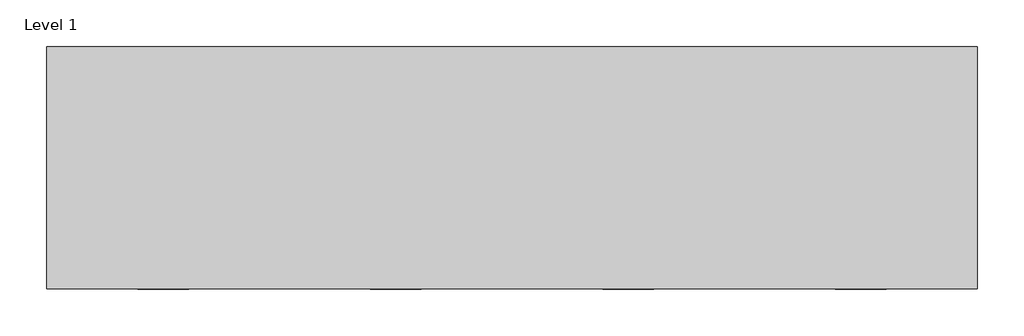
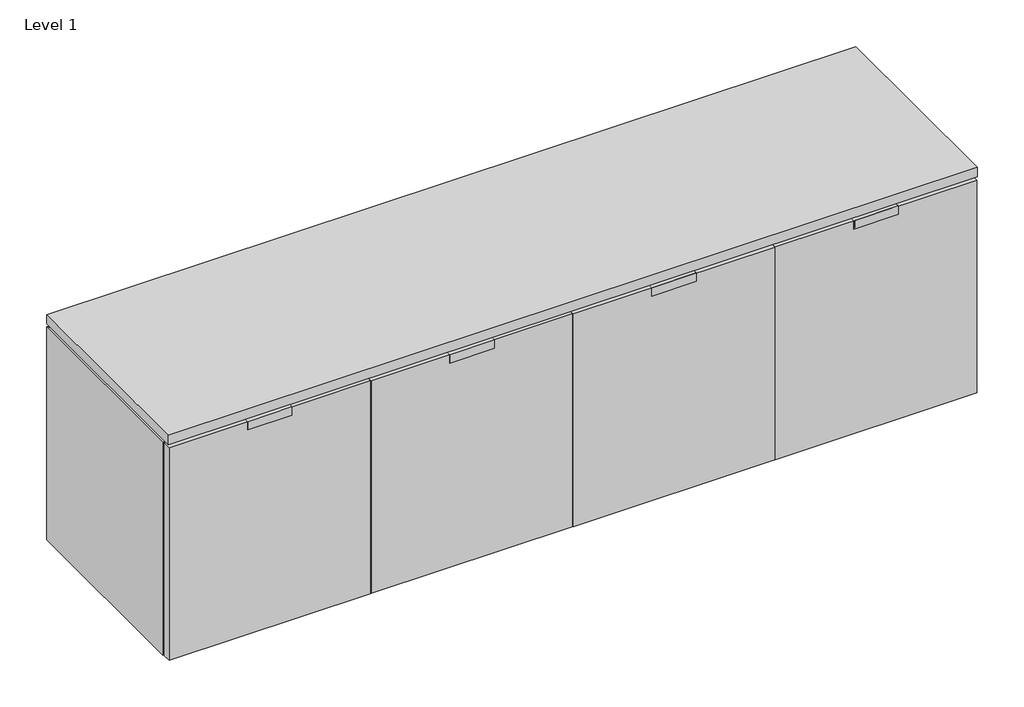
# One storey, incomplete: 19 proxies.
"""IFC4 building model written with IfcOpenShell, lengths in millimetres."""

import ifcopenshell
import ifcopenshell.guid

model = None  # the IFC model being written
_history = None  # IfcOwnerHistory: only IFC2X3 demands one
_inside = {}  # id of a spatial element -> (the spatial element, [elements in it])
_under = {}  # id of a project, library or spatial element -> (it, [spatial elements below it])
_declared = {}  # id of a project -> (the project, [libraries it declares])
_typed = {}  # id of a type object -> (the type object, [elements of that type])
_made_of = {}  # id of a material, layer set ... -> (it, [elements and type objects made of it])


def new_model(schema):
    """Start an empty IFC model of exactly this schema.

    Asked for "IFC4X3", IfcOpenShell would pick the latest addendum, in which some entities
    have other attributes; the version numbers below select the first issue.
    IFC2X3 requires an IfcOwnerHistory on every rooted entity: one is made here for all.
    """
    global model, _history
    if schema == "IFC4X3":
        model = ifcopenshell.file(schema_version=(4, 3, 0, 0))
    else:
        model = ifcopenshell.file(schema=schema)
    _inside.clear()
    _under.clear()
    _declared.clear()
    _typed.clear()
    _made_of.clear()
    _history = None
    if model.schema == "IFC2X3":
        org = make("IfcOrganization", Name="unknown")
        user = make(
            "IfcPersonAndOrganization",
            ThePerson=make("IfcPerson", FamilyName="unknown"),
            TheOrganization=org,
        )
        app = make(
            "IfcApplication",
            ApplicationDeveloper=org,
            Version="unknown",
            ApplicationFullName="unknown",
            ApplicationIdentifier="unknown",
        )
        _history = make(
            "IfcOwnerHistory",
            OwningUser=user,
            OwningApplication=app,
            ChangeAction="ADDED",
            CreationDate=0,
        )
    return model


def make(cls, **values):
    """One entity of the class cls with the attributes given. An attribute that is None is left unset."""
    return model.create_entity(
        cls, **{name: value for name, value in values.items() if value is not None}
    )


def rooted(cls, **values):
    """An entity with a GlobalId (a new one), such as an element, a storey or a relation."""
    return make(cls, GlobalId=ifcopenshell.guid.new(), OwnerHistory=_history, **values)


def si_unit(unit_type, name, prefix=None):
    """IfcSIUnit, for example si_unit("LENGTHUNIT", "METRE", prefix="MILLI")."""
    return make("IfcSIUnit", UnitType=unit_type, Prefix=prefix, Name=name)


def assignment(units):
    """IfcUnitAssignment: the units of a project."""
    return None if units is None else make("IfcUnitAssignment", Units=units)


def point(xyz):
    """IfcCartesianPoint."""
    return None if xyz is None else make("IfcCartesianPoint", Coordinates=xyz)


def direction(xyz):
    """IfcDirection."""
    return None if xyz is None else make("IfcDirection", DirectionRatios=xyz)


def frame(location, z_axis=None, x_axis=None):
    """IfcAxis2Placement3D, a coordinate frame: its origin and axes. An axis left out is left unset."""
    return make(
        "IfcAxis2Placement3D",
        Location=point(location),
        Axis=direction(z_axis),
        RefDirection=direction(x_axis),
    )


def origin():
    """The frame at (0, 0, 0) with its axes left unset."""
    return frame((0.0, 0.0, 0.0))


def place(relative_to, where):
    """IfcLocalPlacement: puts the frame where relative to a parent placement (None: the world)."""
    return make(
        "IfcLocalPlacement", PlacementRelTo=relative_to, RelativePlacement=where
    )


def context(
    kind, dimensions, precision=None, world=None, true_north=None, identifier=None
):
    """IfcGeometricRepresentationContext, for example the 3D "Model" context."""
    return make(
        "IfcGeometricRepresentationContext",
        ContextIdentifier=identifier,
        ContextType=kind,
        CoordinateSpaceDimension=dimensions,
        Precision=precision,
        WorldCoordinateSystem=world,
        TrueNorth=true_north,
    )


def project(units=None, contexts=None):
    """IfcProject with its units and contexts."""
    return rooted(
        "IfcProject",
        Name="project",
        RepresentationContexts=contexts,
        UnitsInContext=assignment(units),
    )


def spatial(cls, under=None, at=None, **own):
    """A site, building, storey or space (cls), placed at a placement, below another one or the project."""
    s = rooted(cls, ObjectPlacement=at, **own)
    if under is not None:
        _under.setdefault(under.id(), (under, []))[1].append(s)
    return s


def polyline(points):
    """IfcPolyline through the points."""
    return make("IfcPolyline", Points=[point(p) for p in points])


def circle_curve(where, radius):
    """IfcCircle in the frame where."""
    return make("IfcCircle", Position=where, Radius=radius)


def outline(outer, holes=None, kind="AREA"):
    """IfcArbitraryClosedProfileDef: a profile drawn as a closed curve; with holes, ...WithVoids."""
    if holes is None:
        return make("IfcArbitraryClosedProfileDef", ProfileType=kind, OuterCurve=outer)
    return make(
        "IfcArbitraryProfileDefWithVoids",
        ProfileType=kind,
        OuterCurve=outer,
        InnerCurves=holes,
    )


def extrude(swept, where, along, depth):
    """IfcExtrudedAreaSolid: the profile swept, set in the frame where, extruded along a direction by depth."""
    return make(
        "IfcExtrudedAreaSolid",
        SweptArea=swept,
        Position=where,
        ExtrudedDirection=direction(along),
        Depth=depth,
    )


def shape(context_of_items, identifier, shape_type, items):
    """IfcShapeRepresentation: the items that make up one representation, for example the "Body"."""
    return make(
        "IfcShapeRepresentation",
        ContextOfItems=context_of_items,
        RepresentationIdentifier=identifier,
        RepresentationType=shape_type,
        Items=items,
    )


def source(mapping_origin, context_of_items, identifier, shape_type, items):
    """IfcRepresentationMap: a shape defined once, which mapped items show again and again."""
    return make(
        "IfcRepresentationMap",
        MappingOrigin=mapping_origin,
        MappedRepresentation=shape(context_of_items, identifier, shape_type, items),
    )


def transform(
    local_origin,
    x_axis=None,
    y_axis=None,
    z_axis=None,
    scale=None,
    scale2=None,
    scale3=None,
    uniform=True,
):
    """IfcCartesianTransformationOperator3D, or its non-uniform kind. x_axis, y_axis, z_axis: its Axis1, 2, 3."""
    if uniform:
        return make(
            "IfcCartesianTransformationOperator3D",
            Axis1=direction(x_axis),
            Axis2=direction(y_axis),
            LocalOrigin=point(local_origin),
            Scale=scale,
            Axis3=direction(z_axis),
        )
    return make(
        "IfcCartesianTransformationOperator3DnonUniform",
        Axis1=direction(x_axis),
        Axis2=direction(y_axis),
        LocalOrigin=point(local_origin),
        Scale=scale,
        Axis3=direction(z_axis),
        Scale2=scale2,
        Scale3=scale3,
    )


def mapped(mapping_source, mapping_target):
    """IfcMappedItem: shows the shape of a source again, moved by a transform."""
    return make(
        "IfcMappedItem", MappingSource=mapping_source, MappingTarget=mapping_target
    )


def made_of(thing, what):
    """Note that an element or type object is made of a material, layer set ...; save() writes the relation."""
    if what is not None:
        _made_of.setdefault(what.id(), (what, []))[1].append(thing)
    return thing


def element(
    cls,
    number,
    at=None,
    inside=None,
    cuts=None,
    type_object=None,
    material=None,
    context=None,
    identifier="Body",
    shape_type=None,
    held_by="IfcProductDefinitionShape",
    body=None,
    shapes=None,
    **own,
):
    """One element of the class cls, such as IfcWall. Its Tag is "e" and its number.

    at: its placement. inside: the storey or other place that contains it. cuts: it is an
    opening in that element (IfcRelVoidsElement). A single representation is given by context,
    identifier, shape_type and body (its items); several are given by shapes. held_by: the class
    of the entity that holds the representations. save() writes the other relations.
    """
    e = rooted(cls, Tag="e%d" % number, ObjectPlacement=at, **own)
    if body is not None:
        shapes = [shape(context, identifier, shape_type, body)]
    if shapes is not None:
        e.Representation = make(held_by, Representations=shapes)
    if inside is not None:
        _inside.setdefault(inside.id(), (inside, []))[1].append(e)
    if cuts is not None:
        rooted(
            "IfcRelVoidsElement", RelatingBuildingElement=cuts, RelatedOpeningElement=e
        )
    if type_object is not None:
        _typed.setdefault(type_object.id(), (type_object, []))[1].append(e)
    return made_of(e, material)


def aggregate(whole, parts):
    """IfcRelAggregates: a whole, such as a stair, and the parts it consists of."""
    return rooted("IfcRelAggregates", RelatingObject=whole, RelatedObjects=parts)


def save(model, path):
    """Write the relations noted so far, then the file.

    IfcRelAggregates (storeys below a building ...), IfcRelContainedInSpatialStructure (elements
    in a storey), IfcRelDefinesByType, IfcRelAssociatesMaterial and IfcRelDeclares: one each for
    every whole, place, type object, material and project.
    """
    for whole, parts in _under.values():
        aggregate(whole, parts)
    for where, things in _inside.values():
        rooted(
            "IfcRelContainedInSpatialStructure",
            RelatedElements=things,
            RelatingStructure=where,
        )
    for kind, things in _typed.values():
        rooted("IfcRelDefinesByType", RelatedObjects=things, RelatingType=kind)
    for what, things in _made_of.values():
        rooted("IfcRelAssociatesMaterial", RelatedObjects=things, RelatingMaterial=what)
    for by, libraries in _declared.values():
        rooted("IfcRelDeclares", RelatingContext=by, RelatedDefinitions=libraries)
    model.write(path)


def plane_surface(at):
    """IfcPlane: the flat surface through the origin of the frame at, square to its z axis."""
    return make("IfcPlane", Position=at)


def cylinder_surface(at, radius):
    """IfcCylindricalSurface: all points at the distance radius from the z axis of the frame at."""
    return make("IfcCylindricalSurface", Position=at, Radius=radius)


def advanced_brep(points, edges, surfaces, faces):
    """IfcAdvancedBrep: a solid bounded by faces that lie on surfaces and meet in shared edges.

    An edge is (start, end): straight between two places in points (the first is 0);
    or (start, end, curve); or (start, end, curve, False) where it runs against its curve.
    A face is (place in surfaces, loops), or (place, loops, False) where it looks against
    its surface's normal. A loop lists edges by number (the first is 1), with a minus sign
    where the edge is run from its end to its start. The first loop is the outer one.
    """
    corners = [point(p) for p in points]
    vertices = [make("IfcVertexPoint", VertexGeometry=c) for c in corners]
    made = []
    for start, end, *more in edges:
        made.append(
            make(
                "IfcEdgeCurve",
                EdgeStart=vertices[start],
                EdgeEnd=vertices[end],
                EdgeGeometry=more[0] if more else make("IfcPolyline", Points=[corners[start], corners[end]]),
                SameSense=more[1] if len(more) > 1 else True,
            )
        )
    hull = []
    for where, loops, *sense in faces:
        bounds = []
        for j, loop in enumerate(loops):
            ring = [make("IfcOrientedEdge", EdgeElement=made[abs(k) - 1], Orientation=k > 0) for k in loop]
            bounds.append(
                make(
                    "IfcFaceOuterBound" if j == 0 else "IfcFaceBound",
                    Bound=make("IfcEdgeLoop", EdgeList=ring),
                    Orientation=True,
                )
            )
        hull.append(make("IfcAdvancedFace", Bounds=bounds, FaceSurface=surfaces[where], SameSense=sense[0] if sense else True))
    return make("IfcAdvancedBrep", Outer=make("IfcClosedShell", CfsFaces=hull))


def generic_models_123ce8f4(model_context):
    return source(origin(), model_context, "Body", "SweptSolid", [
        extrude(outline(polyline([(604.8375, -28.575), (623.8875, -28.575), (623.8875, -668.5), (604.8375, -668.5), (604.8375, -28.575)])), frame((0.0, 0.0, -615.95), z_axis=(0.0, 0.0, 1.0), x_axis=(1.0, 0.0, 0.0)), (0.0, 0.0, 1.0), 587.375),
    ])


def generic_models_c79cc1ee(model_context):
    return source(origin(), model_context, "Body", "SweptSolid", [
        extrude(outline(polyline([(108.74375, -668.5), (108.74375, -706.6), (19.05, -706.6), (19.05, -668.5), (108.74375, -668.5)])), frame((0.0, 0.0, -615.95), z_axis=(0.0, 0.0, 1.0), x_axis=(1.0, 0.0, 0.0)), (0.0, 0.0, 1.0), 587.375),
    ])


def generic_models_07acab32(model_context):
    return source(origin(), model_context, "Body", "SweptSolid", [
        extrude(outline(polyline([(-28.575, 19.05), (-28.575, 0.0), (-635.0, 0.0), (-615.95, 19.05), (-28.575, 19.05)])), frame((0.0, -687.55, 0.0), z_axis=(0.0, 1.0, 0.0), x_axis=(0.0, 0.0, 1.0)), (0.0, 0.0, 1.0), 678.025),
    ])


def generic_models_36aad1c9(model_context):
    return source(origin(), model_context, "Body", "SweptSolid", [
        extrude(outline(polyline([(604.8375, -668.5), (19.05, -668.5), (19.05, -649.45), (604.8375, -649.45), (604.8375, -668.5)])), frame((0.0, 0.0, -615.95), z_axis=(0.0, 0.0, 1.0), x_axis=(1.0, 0.0, 0.0)), (0.0, 0.0, 1.0), 587.375),
    ])


def generic_models_1e92318b(model_context):
    return source(origin(), model_context, "Body", "SweptSolid", [
        extrude(outline(polyline([(1814.5125, -28.575), (1833.5625, -28.575), (1833.5625, -668.5), (1814.5125, -668.5), (1814.5125, -28.575)])), frame((0.0, 0.0, -615.95), z_axis=(0.0, 0.0, 1.0), x_axis=(1.0, 0.0, 0.0)), (0.0, 0.0, 1.0), 587.375),
    ])


def generic_models_2541da5b(model_context):
    return source(origin(), model_context, "Body", "SweptSolid", [
        extrude(outline(polyline([(2436.0520875, -687.55), (1829.42865, -687.55), (1829.42865, -9.525), (2436.0520875, -9.525), (2436.0520875, -687.55)])), frame((0.0, 0.0, -25.4), z_axis=(0.0, 0.0, 1.0), x_axis=(1.0, 0.0, 0.0)), (0.0, 0.0, 1.0), 25.4),
    ])


def generic_models_3c5db53f(model_context):
    return source(origin(), model_context, "Body", "SweptSolid", [
        extrude(outline(polyline([(19.05, 0.0), (2419.35, 0.0), (2419.35, -28.575), (19.05, -28.575), (19.05, 0.0)])), frame((0.0, 0.0, -615.95), z_axis=(0.0, 0.0, 1.0), x_axis=(1.0, 0.0, 0.0)), (0.0, 0.0, 1.0), 587.375),
    ])


def generic_models_a6ef1975(model_context):
    return source(origin(), model_context, "Body", "SweptSolid", [
        extrude(outline(polyline([(1228.725, -668.5), (1209.675, -668.5), (1209.675, -28.575), (1228.725, -28.575), (1228.725, -668.5)])), frame((0.0, 0.0, -615.95), z_axis=(0.0, 0.0, 1.0), x_axis=(1.0, 0.0, 0.0)), (0.0, 0.0, 1.0), 587.375),
    ])


def generic_models_30219c74(model_context):
    return source(origin(), model_context, "Body", "SweptSolid", [
        extrude(outline(polyline([(2419.35, -668.5), (2419.35, -706.6), (515.14375, -706.6), (515.14375, -668.5), (2419.35, -668.5)])), frame((0.0, 0.0, -615.95), z_axis=(0.0, 0.0, 1.0), x_axis=(1.0, 0.0, 0.0)), (0.0, 0.0, 1.0), 587.375),
    ])


def generic_models_e2126484(model_context):
    return source(origin(), model_context, "Body", "SweptSolid", [
        extrude(outline(polyline([(-615.95, 2419.35), (-615.95, 19.05), (-635.0, 0.0), (-635.0, 2438.4), (-615.95, 2419.35)])), frame((0.0, -687.55, 0.0), z_axis=(0.0, 1.0, 0.0), x_axis=(0.0, 0.0, 1.0)), (0.0, 0.0, 1.0), 678.025),
    ])


def generic_models_457b1677(model_context):
    return source(origin(), model_context, "Body", "SweptSolid", [
        extrude(outline(polyline([(2438.4, 0.0), (0.0, 0.0), (0.0, 30.0), (2438.4, 30.0), (2438.4, 0.0)])), frame((0.0, 0.0, -635.0), z_axis=(0.0, 0.0, 1.0), x_axis=(1.0, 0.0, 0.0)), (0.0, 0.0, 1.0), 635.0),
    ])


def generic_models_30467224(model_context):
    return source(origin(), model_context, "Body", "SweptSolid", [
        extrude(outline(polyline([(609.0046875, -687.55), (2.38125, -687.55), (2.38125, -9.525), (609.0046875, -9.525), (609.0046875, -687.55)])), frame((0.0, 0.0, -25.4), z_axis=(0.0, 0.0, 1.0), x_axis=(1.0, 0.0, 0.0)), (0.0, 0.0, 1.0), 25.4),
    ])


def generic_models_2f4708ec(model_context):
    return source(origin(), model_context, "Body", "SweptSolid", [
        extrude(outline(polyline([(1218.0204875, -687.55), (611.39705, -687.55), (611.39705, -9.525), (1218.0204875, -9.525), (1218.0204875, -687.55)])), frame((0.0, 0.0, -25.4), z_axis=(0.0, 0.0, 1.0), x_axis=(1.0, 0.0, 0.0)), (0.0, 0.0, 1.0), 25.4),
    ])


def generic_models_2bbf2483(model_context):
    return source(origin(), model_context, "Body", "SweptSolid", [
        extrude(outline(polyline([(-28.575, 2419.35), (-615.95, 2419.35), (-635.0, 2438.4), (-28.575, 2438.4), (-28.575, 2419.35)])), frame((0.0, -687.55, 0.0), z_axis=(0.0, 1.0, 0.0), x_axis=(0.0, 0.0, 1.0)), (0.0, 0.0, 1.0), 678.025),
    ])


def generic_models_5b38791a(model_context):
    return source(origin(), model_context, "Body", "SweptSolid", [
        extrude(outline(polyline([(1827.0362875, -687.55), (1220.41285, -687.55), (1220.41285, -9.525), (1827.0362875, -9.525), (1827.0362875, -687.55)])), frame((0.0, 0.0, -25.4), z_axis=(0.0, 0.0, 1.0), x_axis=(1.0, 0.0, 0.0)), (0.0, 0.0, 1.0), 25.4),
    ])


def pull_2518_0e440d19(model_context):
    return source(origin(), model_context, "Body", "AdvancedBrep", [
        advanced_brep(
        [(47.592487, -59.6005192, 12.7), (181.592487, -59.6005192, 12.7), (181.592487, -59.6005192, 0.0), (47.592487, -59.6005192, 0.0), (47.592487, -86.6005192, 12.7), (181.592487, -86.6005192, 12.7), (47.592487, -86.6005192, 12.192), (181.592487, -86.6005192, 12.192), (181.592487, -60.1085192, 0.0), (47.592487, -60.1085192, 0.0), (53.942487, -85.6005192, 12.192), (49.973737, -83.8382098, 12.192), (49.973737, -83.8382098, 0.7), (53.942487, -85.6005192, 0.7), (175.242487, -85.6005192, 12.192), (175.242487, -85.6005192, 0.7), (179.211237, -83.8382098, 12.192), (179.211237, -83.8382098, 0.7), (181.592487, -60.1085192, 12.192), (179.211237, -60.1085192, 12.192), (179.211237, -60.1085192, 0.7), (49.973737, -60.1085192, 0.7), (49.973737, -60.1085192, 12.192), (47.592487, -60.1085192, 12.192)],
        [
            (0, 1),
            (1, 2),
            (2, 3),
            (3, 0),
            (0, 4),
            (4, 5),
            (5, 1),
            (4, 6),
            (6, 7),
            (7, 5),
            (2, 8),
            (8, 9),
            (9, 3),
            (10, 11, circle_curve(frame((53.942487, -80.2505192, 12.192), z_axis=(0.0, 0.0, -1.0), x_axis=(-5.897046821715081e-12, 1.0, 0.0)), 5.35)),
            (11, 12),
            (12, 13, circle_curve(frame((53.942487, -80.2505192, 0.7), z_axis=(0.0, 0.0, 1.0), x_axis=(-5.897046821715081e-12, 1.0, 0.0)), 5.35)),
            (13, 10),
            (14, 10),
            (13, 15),
            (15, 14),
            (16, 14, circle_curve(frame((175.242487, -80.2505192, 12.192), z_axis=(0.0, 0.0, -1.0), x_axis=(-0.741822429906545, 0.6705963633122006, 0.0)), 5.35)),
            (15, 17, circle_curve(frame((175.242487, -80.2505192, 0.7), z_axis=(0.0, 0.0, 1.0), x_axis=(-0.741822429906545, 0.6705963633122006, 0.0)), 5.35)),
            (17, 16),
            (8, 18),
            (18, 19),
            (19, 20),
            (20, 21),
            (21, 22),
            (22, 23),
            (23, 9),
            (12, 21),
            (20, 17),
            (19, 16),
            (6, 23),
            (22, 11),
            (18, 7),
        ],
        [
            plane_surface(frame((181.592487, -59.6005192, 0.0), z_axis=(0.0, 1.0, 0.0), x_axis=(-1.0, 0.0, 0.0))),
            plane_surface(frame((114.592487, -79.0969577, 12.7), z_axis=(0.0, 0.0, 1.0), x_axis=(1.0, 0.0, 0.0))),
            plane_surface(frame((47.592487, -86.6005192, 0.0), z_axis=(0.0, -1.0, 0.0), x_axis=(1.0, 0.0, 0.0))),
            plane_surface(frame((114.592487, -79.0969577, 0.0), z_axis=(0.0, 0.0, -1.0), x_axis=(1.0, 0.0, 0.0))),
            cylinder_surface(frame((53.942487, -80.2505192, 0.7), z_axis=(0.0, 0.0, 1.0), x_axis=(-5.897046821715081e-12, 1.0, 0.0)), 5.35),
            plane_surface(frame((175.242487, -85.6005192, 0.7), z_axis=(0.0, -1.0, 0.0), x_axis=(-1.0, 0.0, 0.0))),
            cylinder_surface(frame((175.242487, -80.2505192, 0.7), z_axis=(0.0, 0.0, 0.9999999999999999), x_axis=(-0.741822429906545, 0.6705963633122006, 0.0)), 5.35),
            plane_surface(frame((180.401862, -60.1085192, 6.096), z_axis=(0.0, -1.0, 0.0), x_axis=(0.0, 0.0, -1.0))),
            plane_surface(frame((114.592487, -73.3545192, 0.7), z_axis=(0.0, 0.0, -1.0), x_axis=(1.0, 0.0, 0.0))),
            plane_surface(frame((179.211237, -59.6005192, 0.0), z_axis=(1.0, 0.0, 0.0), x_axis=(0.0, -1.0, 0.0))),
            plane_surface(frame((48.783112, -72.4040028, 12.192), z_axis=(0.0, 0.0, -1.0), x_axis=(-1.0, 0.0, 0.0))),
            plane_surface(frame((49.973737, -85.2074864, 0.0), z_axis=(-1.0, 1.4501810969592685e-12, 0.0), x_axis=(1.4501810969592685e-12, 1.0, 0.0))),
            plane_surface(frame((47.592487, -59.6005192, 0.0), z_axis=(-1.0, 1.449704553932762e-12, 0.0), x_axis=(-1.449704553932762e-12, -1.0, 0.0))),
            plane_surface(frame((181.592487, -86.6005192, 0.0), z_axis=(1.0, 0.0, 0.0), x_axis=(0.0, 1.0, 0.0))),
        ],
        [
            (0, [[1, 2, 3, 4]]),
            (1, [[-1, 5, 6, 7]]),
            (2, [[-6, 8, 9, 10]]),
            (3, [[-3, 11, 12, 13]]),
            (4, [[14, 15, 16, 17]]),
            (5, [[18, -17, 19, 20]]),
            (6, [[21, -20, 22, 23]]),
            (7, [[-12, 24, 25, 26, 27, 28, 29, 30]]),
            (8, [[-16, 31, -27, 32, -22, -19]]),
            (9, [[-23, -32, -26, 33]]),
            (10, [[-9, 34, -29, 35, -14, -18, -21, -33, -25, 36]]),
            (11, [[-15, -35, -28, -31]]),
            (12, [[-5, -4, -13, -30, -34, -8]]),
            (13, [[-10, -36, -24, -11, -2, -7]]),
        ],
    ),
    ])


model = new_model("IFC4")

# Units and contexts
model_context = context("Model", 3, world=origin())
ifc_project = project(units=[si_unit("LENGTHUNIT", "METRE", prefix="MILLI")], contexts=[model_context])

# Site, building, storey
site = spatial("IfcSite", under=ifc_project)
building = spatial("IfcBuilding", under=site)
storey = spatial("IfcBuildingStorey", under=building, Name="Level 1", Elevation=0.0)

# Proxies
placement = place(None, origin())
generic_models_shape = generic_models_123ce8f4(model_context)
element("IfcBuildingElementProxy", 1, Name="BASYS^CREDENZA 1_INTERNAL DETAILS-LT PART", ObjectType="BASYS^CREDENZA 1_INTERNAL DETAILS-LT PART", at=placement, inside=storey, context=model_context, shape_type="MappedRepresentation", body=[
    mapped(generic_models_shape, transform((0.0, 0.0, 0.0), x_axis=(1.0, 0.0, 0.0), y_axis=(0.0, 0.0, 1.0), z_axis=(0.0, -1.0, 0.0))),
])
generic_models_2_shape = generic_models_c79cc1ee(model_context)
element("IfcBuildingElementProxy", 2, Name="BASYS^CREDENZA 1_INTERNAL DETAILS-LEFT BOTTOM", ObjectType="BASYS^CREDENZA 1_INTERNAL DETAILS-LEFT BOTTOM", at=placement, inside=storey, context=model_context, shape_type="MappedRepresentation", body=[
    mapped(generic_models_2_shape, transform((0.0, 0.0, 0.0), x_axis=(1.0, 0.0, 0.0), y_axis=(0.0, 0.0, 1.0), z_axis=(0.0, -1.0, 0.0))),
])
generic_models_3_shape = generic_models_07acab32(model_context)
element("IfcBuildingElementProxy", 3, Name="BASYS^CREDENZA 1_INTERNAL DETAILS-LEFT END", ObjectType="BASYS^CREDENZA 1_INTERNAL DETAILS-LEFT END", at=placement, inside=storey, context=model_context, shape_type="MappedRepresentation", body=[
    mapped(generic_models_3_shape, transform((0.0, 0.0, 0.0), x_axis=(1.0, 0.0, 0.0), y_axis=(0.0, 0.0, 1.0), z_axis=(0.0, -1.0, 0.0))),
])
generic_models_4_shape = generic_models_36aad1c9(model_context)
element("IfcBuildingElementProxy", 4, Name="BASYS^CREDENZA 1_INTERNAL DETAILS-INTERNAL BOTTOM", ObjectType="BASYS^CREDENZA 1_INTERNAL DETAILS-INTERNAL BOTTOM", at=placement, inside=storey, context=model_context, shape_type="MappedRepresentation", body=[
    mapped(generic_models_4_shape, transform((0.0, 0.0, 0.0), x_axis=(1.0, 0.0, 0.0), y_axis=(0.0, 0.0, 1.0), z_axis=(0.0, -1.0, 0.0))),
])
generic_models_5_shape = generic_models_1e92318b(model_context)
element("IfcBuildingElementProxy", 5, Name="BASYS^CREDENZA 1_INTERNAL DETAILS-RT PART", ObjectType="BASYS^CREDENZA 1_INTERNAL DETAILS-RT PART", at=placement, inside=storey, context=model_context, shape_type="MappedRepresentation", body=[
    mapped(generic_models_5_shape, transform((0.0, 0.0, 0.0), x_axis=(1.0, 0.0, 0.0), y_axis=(0.0, 0.0, 1.0), z_axis=(0.0, -1.0, 0.0))),
])
generic_models_6_shape = generic_models_2541da5b(model_context)
element("IfcBuildingElementProxy", 6, Name="BASYS^CREDENZA 1_INTERNAL DETAILS-RT END DOOR", ObjectType="BASYS^CREDENZA 1_INTERNAL DETAILS-RT END DOOR", at=placement, inside=storey, context=model_context, shape_type="MappedRepresentation", body=[
    mapped(generic_models_6_shape, transform((0.0, 0.0, 0.0), x_axis=(1.0, 0.0, 0.0), y_axis=(0.0, 0.0, 1.0), z_axis=(0.0, -1.0, 0.0))),
])
generic_models_7_shape = generic_models_3c5db53f(model_context)
element("IfcBuildingElementProxy", 7, Name="BASYS^CREDENZA 1_INTERNAL DETAILS-SUB TOP", ObjectType="BASYS^CREDENZA 1_INTERNAL DETAILS-SUB TOP", at=placement, inside=storey, context=model_context, shape_type="MappedRepresentation", body=[
    mapped(generic_models_7_shape, transform((0.0, 0.0, 0.0), x_axis=(1.0, 0.0, 0.0), y_axis=(0.0, 0.0, 1.0), z_axis=(0.0, -1.0, 0.0))),
])
generic_models_8_shape = generic_models_a6ef1975(model_context)
element("IfcBuildingElementProxy", 8, Name="BASYS^CREDENZA 1_INTERNAL DETAILS-CTR PART", ObjectType="BASYS^CREDENZA 1_INTERNAL DETAILS-CTR PART", at=placement, inside=storey, context=model_context, shape_type="MappedRepresentation", body=[
    mapped(generic_models_8_shape, transform((0.0, 0.0, 0.0), x_axis=(1.0, 0.0, 0.0), y_axis=(0.0, 0.0, 1.0), z_axis=(0.0, -1.0, 0.0))),
])
generic_models_9_shape = generic_models_30219c74(model_context)
element("IfcBuildingElementProxy", 9, Name="BASYS^CREDENZA 1_INTERNAL DETAILS-RT BOTTOM", ObjectType="BASYS^CREDENZA 1_INTERNAL DETAILS-RT BOTTOM", at=placement, inside=storey, context=model_context, shape_type="MappedRepresentation", body=[
    mapped(generic_models_9_shape, transform((0.0, 0.0, 0.0), x_axis=(1.0, 0.0, 0.0), y_axis=(0.0, 0.0, 1.0), z_axis=(0.0, -1.0, 0.0))),
])
generic_models_10_shape = generic_models_e2126484(model_context)
element("IfcBuildingElementProxy", 10, Name="BASYS^CREDENZA 1_INTERNAL DETAILS-BACK", ObjectType="BASYS^CREDENZA 1_INTERNAL DETAILS-BACK", at=placement, inside=storey, context=model_context, shape_type="MappedRepresentation", body=[
    mapped(generic_models_10_shape, transform((0.0, 0.0, 0.0), x_axis=(1.0, 0.0, 0.0), y_axis=(0.0, 0.0, 1.0), z_axis=(0.0, -1.0, 0.0))),
])
generic_models_11_shape = generic_models_457b1677(model_context)
element("IfcBuildingElementProxy", 11, Name="BASYS^CREDENZA 1_INTERNAL DETAILS-OVERLAY TOP", ObjectType="BASYS^CREDENZA 1_INTERNAL DETAILS-OVERLAY TOP", at=placement, inside=storey, context=model_context, shape_type="MappedRepresentation", body=[
    mapped(generic_models_11_shape, transform((0.0, 0.0, 0.0), x_axis=(1.0, 0.0, 0.0), y_axis=(0.0, 0.0, 1.0), z_axis=(0.0, -1.0, 0.0))),
])
generic_models_12_shape = generic_models_30467224(model_context)
element("IfcBuildingElementProxy", 12, Name="BASYS^CREDENZA 1_INTERNAL DETAILS-LT END DOOR", ObjectType="BASYS^CREDENZA 1_INTERNAL DETAILS-LT END DOOR", at=placement, inside=storey, context=model_context, shape_type="MappedRepresentation", body=[
    mapped(generic_models_12_shape, transform((0.0, 0.0, 0.0), x_axis=(1.0, 0.0, 0.0), y_axis=(0.0, 0.0, 1.0), z_axis=(0.0, -1.0, 0.0))),
])
generic_models_13_shape = generic_models_2f4708ec(model_context)
element("IfcBuildingElementProxy", 13, Name="BASYS^CREDENZA 1_INTERNAL DETAILS-LT CTR DOOR", ObjectType="BASYS^CREDENZA 1_INTERNAL DETAILS-LT CTR DOOR", at=placement, inside=storey, context=model_context, shape_type="MappedRepresentation", body=[
    mapped(generic_models_13_shape, transform((0.0, 0.0, 0.0), x_axis=(1.0, 0.0, 0.0), y_axis=(0.0, 0.0, 1.0), z_axis=(0.0, -1.0, 0.0))),
])
generic_models_14_shape = generic_models_2bbf2483(model_context)
element("IfcBuildingElementProxy", 14, Name="BASYS^CREDENZA 1_INTERNAL DETAILS-RIGHT END", ObjectType="BASYS^CREDENZA 1_INTERNAL DETAILS-RIGHT END", at=placement, inside=storey, context=model_context, shape_type="MappedRepresentation", body=[
    mapped(generic_models_14_shape, transform((0.0, 0.0, 0.0), x_axis=(1.0, 0.0, 0.0), y_axis=(0.0, 0.0, 1.0), z_axis=(0.0, -1.0, 0.0))),
])
generic_models_15_shape = generic_models_5b38791a(model_context)
element("IfcBuildingElementProxy", 15, Name="BASYS^CREDENZA 1_INTERNAL DETAILS-RT CTR DOOR", ObjectType="BASYS^CREDENZA 1_INTERNAL DETAILS-RT CTR DOOR", at=placement, inside=storey, context=model_context, shape_type="MappedRepresentation", body=[
    mapped(generic_models_15_shape, transform((0.0, 0.0, 0.0), x_axis=(1.0, 0.0, 0.0), y_axis=(0.0, 0.0, 1.0), z_axis=(0.0, -1.0, 0.0))),
])
pull_2518_shape = pull_2518_0e440d19(model_context)
element("IfcBuildingElementProxy", 16, Name="PULL 2518", ObjectType="PULL 2518", at=placement, inside=storey, context=model_context, shape_type="MappedRepresentation", body=[
    mapped(pull_2518_shape, transform((800.1162816, 12.192, 50.5835192), x_axis=(1.0, 0.0, 0.0), y_axis=(0.0, 0.0, 1.0), z_axis=(0.0, -1.0, 0.0))),
])
element("IfcBuildingElementProxy", 17, Name="PULL 2518", ObjectType="PULL 2518", at=placement, inside=storey, context=model_context, shape_type="MappedRepresentation", body=[
    mapped(pull_2518_shape, transform((1409.1320816, 12.192, 50.5835192), x_axis=(1.0, 0.0, 0.0), y_axis=(0.0, 0.0, 1.0), z_axis=(0.0, -1.0, 0.0))),
])
element("IfcBuildingElementProxy", 18, Name="PULL 2518", ObjectType="PULL 2518", at=placement, inside=storey, context=model_context, shape_type="MappedRepresentation", body=[
    mapped(pull_2518_shape, transform((191.1004818, 12.192, 50.5835192), x_axis=(1.0, 0.0, 0.0), y_axis=(0.0, 0.0, 1.0), z_axis=(0.0, -1.0, 0.0))),
])
element("IfcBuildingElementProxy", 19, Name="PULL 2518", ObjectType="PULL 2518", at=placement, inside=storey, context=model_context, shape_type="MappedRepresentation", body=[
    mapped(pull_2518_shape, transform((2018.1478816, 12.192, 50.5835192), x_axis=(1.0, 0.0, 0.0), y_axis=(0.0, 0.0, 1.0), z_axis=(0.0, -1.0, 0.0))),
])

save(model, "model.ifc")
